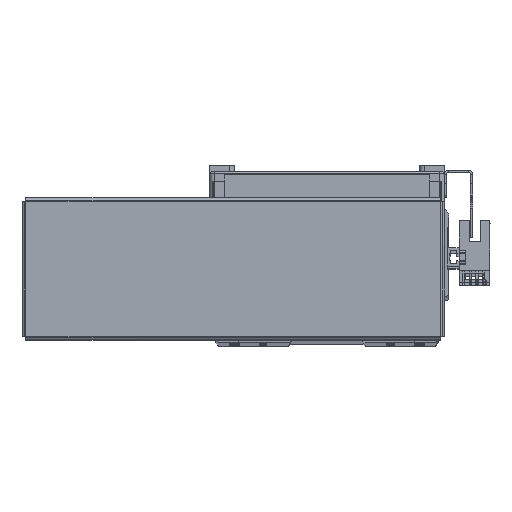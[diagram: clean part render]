
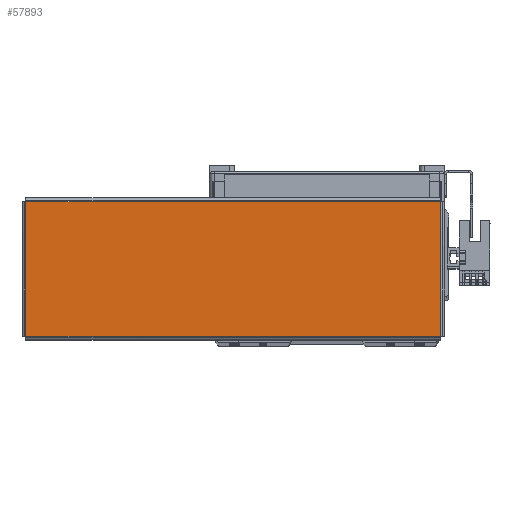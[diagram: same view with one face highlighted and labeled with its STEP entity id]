
A CAD part, top view. The second image highlights one B-rep face of the part: STEP entity #57893.
In plain terms, the highlighted planar face has unit normal (0, 0, 1) as drawn and (0, -1, 0) by its records, which use the part's own axes.
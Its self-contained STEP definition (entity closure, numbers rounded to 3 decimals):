
#6234 = EDGE_CURVE ( 'NONE', #44456, #44520, #40040, .T. ) ;
#6260 = EDGE_CURVE ( 'NONE', #44526, #44456, #40002, .T. ) ;
#6302 = EDGE_CURVE ( 'NONE', #44520, #44459, #39994, .T. ) ;
#6384 = EDGE_CURVE ( 'NONE', #44459, #44526, #40057, .T. ) ;
#32185 = CARTESIAN_POINT ( 'NONE',  ( 0., -1., 0. ) ) ;
#32206 = DIRECTION ( 'NONE',  ( 0., 1., 0. ) ) ;
#32221 = PLANE ( 'NONE',  #33892 ) ;
#32234 = DIRECTION ( 'NONE',  ( 0., 0., 1. ) ) ;
#32745 = CARTESIAN_POINT ( 'NONE',  ( 91.863, -1., -29.793 ) ) ;
#32750 = DIRECTION ( 'NONE',  ( 0., 0., 1. ) ) ;
#32900 = CARTESIAN_POINT ( 'NONE',  ( 91.893, -1., 29.763 ) ) ;
#32901 = DIRECTION ( 'NONE',  ( -1., 0., 0. ) ) ;
#33600 = DIRECTION ( 'NONE',  ( 1., 0., 0. ) ) ;
#33604 = CARTESIAN_POINT ( 'NONE',  ( -91.863, -1., 29.793 ) ) ;
#33612 = CARTESIAN_POINT ( 'NONE',  ( -91.893, -1., -29.763 ) ) ;
#33622 = DIRECTION ( 'NONE',  ( 0., 0., -1. ) ) ;
#33892 = AXIS2_PLACEMENT_3D ( 'NONE', #32185, #32206, #32234 ) ;
#37224 = FACE_OUTER_BOUND ( 'NONE', #55609, .T. ) ;
#39984 = VECTOR ( 'NONE', #33622, 1000. ) ;
#39994 = LINE ( 'NONE', #32745, #40013 ) ;
#39998 = VECTOR ( 'NONE', #33600, 1000. ) ;
#40002 = LINE ( 'NONE', #33604, #39984 ) ;
#40013 = VECTOR ( 'NONE', #32750, 1000. ) ;
#40040 = LINE ( 'NONE', #33612, #39998 ) ;
#40057 = LINE ( 'NONE', #32900, #40099 ) ;
#40099 = VECTOR ( 'NONE', #32901, 1000. ) ;
#44456 = VERTEX_POINT ( 'NONE', #64925 ) ;
#44459 = VERTEX_POINT ( 'NONE', #64960 ) ;
#44520 = VERTEX_POINT ( 'NONE', #64988 ) ;
#44526 = VERTEX_POINT ( 'NONE', #64997 ) ;
#55609 = EDGE_LOOP ( 'NONE', ( #61497, #61534, #61432, #61470 ) ) ;
#57893 = ADVANCED_FACE ( 'NONE', ( #37224 ), #32221, .F. ) ;
#61432 = ORIENTED_EDGE ( 'NONE', *, *, #6384, .T. ) ;
#61470 = ORIENTED_EDGE ( 'NONE', *, *, #6260, .T. ) ;
#61497 = ORIENTED_EDGE ( 'NONE', *, *, #6234, .T. ) ;
#61534 = ORIENTED_EDGE ( 'NONE', *, *, #6302, .T. ) ;
#64925 = CARTESIAN_POINT ( 'NONE',  ( -91.863, -1., -29.763 ) ) ;
#64960 = CARTESIAN_POINT ( 'NONE',  ( 91.863, -1., 29.763 ) ) ;
#64988 = CARTESIAN_POINT ( 'NONE',  ( 91.863, -1., -29.763 ) ) ;
#64997 = CARTESIAN_POINT ( 'NONE',  ( -91.863, -1., 29.763 ) ) ;
